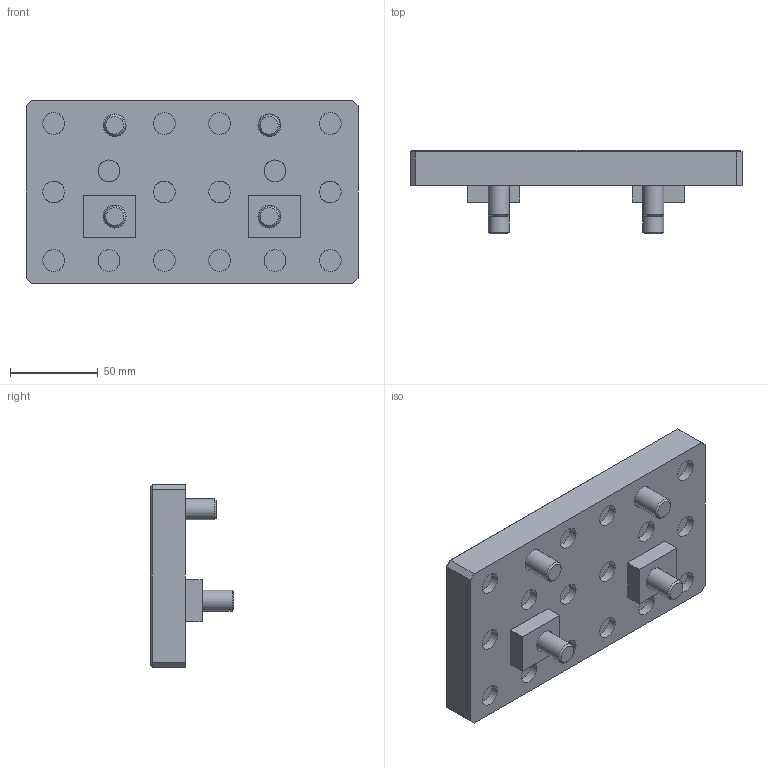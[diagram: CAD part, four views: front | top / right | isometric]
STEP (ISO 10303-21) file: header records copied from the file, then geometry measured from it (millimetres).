
FILE_DESCRIPTION (( 'STEP AP214' ), '1' );
FILE_NAME ('6921734005642.STEP', '2017-11-13T14:06:53', ( '' ), ( '' ), 'SwSTEP 2.0', 'SolidWorks 2016', '' );
FILE_SCHEMA (( 'AUTOMOTIVE_DESIGN' ));
Length unit declared in the file: millimetre
Products named in the file (5): 8006101225050_<standard>; 8006101235000_DIN 912 M12 x 35 --- 35N; 6921885011000; 6921734005642; 6921734005600
Assembly tree (21 placements, depth 2):
  6921734005642
    6921734005600
    8006101235000_DIN 912 M12 x 35 --- 35N  x2
    8006101225050_<standard>  x2
    6921885011000  x16
Bounding box: 189 x 47.5 x 104 mm (x, y, z)
Volume: 397273.1 mm3; surface area: 95602.7 mm2
Topology: 21 solids, 21 shells, 576 faces, 1236 edges, 744 vertices
Faces by surface type: plane 348, cylinder 112, cone 108, torus 8
Full cylindrical faces by diameter (mm): 5 x16, 12 x4, 12.4 x16, 12.5 x16, 13 x4, 14 x16, 15.8 x16, 16 x16, 18 x4, 19 x4
Entity records: 4821 total; most frequent: DIRECTION 810, CARTESIAN_POINT 756, ORIENTED_EDGE 556, AXIS2_PLACEMENT_3D 340, EDGE_LOOP 320, EDGE_CURVE 278, FACE_OUTER_BOUND 226, VERTEX_POINT 218
